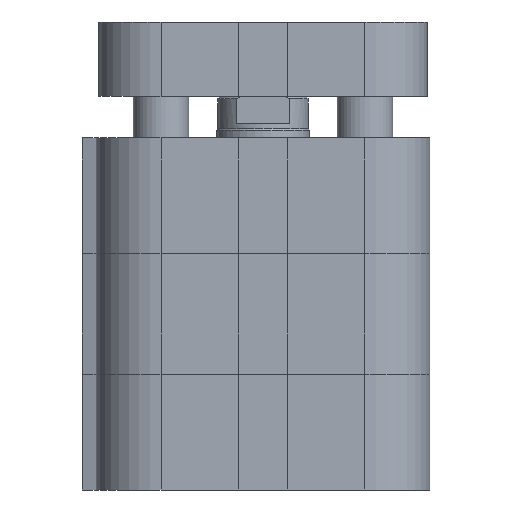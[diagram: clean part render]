
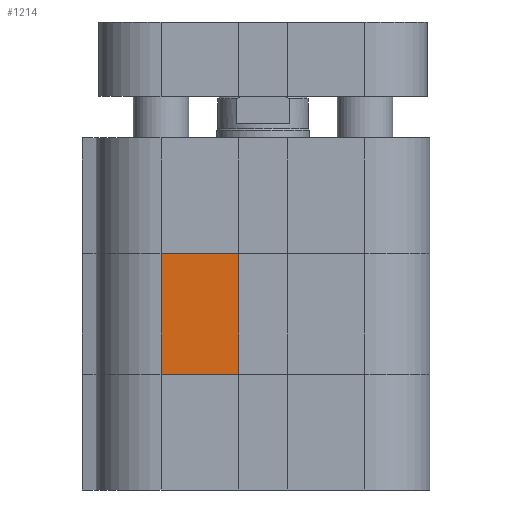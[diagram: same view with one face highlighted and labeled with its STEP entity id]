
A CAD part, left-side view. The second image highlights one B-rep face of the part: STEP entity #1214.
In plain terms, the highlighted planar face has unit normal (-1, 0, 0).
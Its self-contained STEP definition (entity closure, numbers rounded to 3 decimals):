
#1125=CARTESIAN_POINT('',(-18.,11.0,12.5));
#1126=VERTEX_POINT('',#1125);
#1134=CARTESIAN_POINT('',(-18.,11.0,25.5));
#1135=VERTEX_POINT('',#1134);
#1136=CARTESIAN_POINT('',(-18.,11.0,12.5));
#1137=DIRECTION('',(0.0,0.0,1.0));
#1138=VECTOR('',#1137,13.);
#1139=LINE('',#1136,#1138);
#1140=EDGE_CURVE('',#1126,#1135,#1139,.T.);
#1184=CARTESIAN_POINT('',(-18.0,2.6,0.0));
#1185=DIRECTION('',(-1.0,0.0,0.0));
#1186=DIRECTION('',(0.0,0.0,1.0));
#1187=AXIS2_PLACEMENT_3D('',#1184,#1185,#1186);
#1188=PLANE('',#1187);
#1189=CARTESIAN_POINT('',(-18.0,2.6,12.5));
#1190=VERTEX_POINT('',#1189);
#1191=CARTESIAN_POINT('',(-18.,11.0,12.5));
#1192=DIRECTION('',(0.0,-1.0,0.0));
#1193=VECTOR('',#1192,8.4);
#1194=LINE('',#1191,#1193);
#1195=EDGE_CURVE('',#1126,#1190,#1194,.T.);
#1196=ORIENTED_EDGE('',*,*,#1195,.T.);
#1197=CARTESIAN_POINT('',(-18.0,2.6,25.5));
#1198=VERTEX_POINT('',#1197);
#1199=CARTESIAN_POINT('',(-18.0,2.6,12.5));
#1200=DIRECTION('',(0.0,0.0,1.0));
#1201=VECTOR('',#1200,13.);
#1202=LINE('',#1199,#1201);
#1203=EDGE_CURVE('',#1190,#1198,#1202,.T.);
#1204=ORIENTED_EDGE('',*,*,#1203,.T.);
#1205=CARTESIAN_POINT('',(-18.,11.0,25.5));
#1206=DIRECTION('',(0.0,-1.0,0.0));
#1207=VECTOR('',#1206,8.4);
#1208=LINE('',#1205,#1207);
#1209=EDGE_CURVE('',#1135,#1198,#1208,.T.);
#1210=ORIENTED_EDGE('',*,*,#1209,.F.);
#1211=ORIENTED_EDGE('',*,*,#1140,.F.);
#1212=EDGE_LOOP('',(#1196,#1204,#1210,#1211));
#1213=FACE_OUTER_BOUND('',#1212,.T.);
#1214=ADVANCED_FACE('',(#1213),#1188,.T.);
